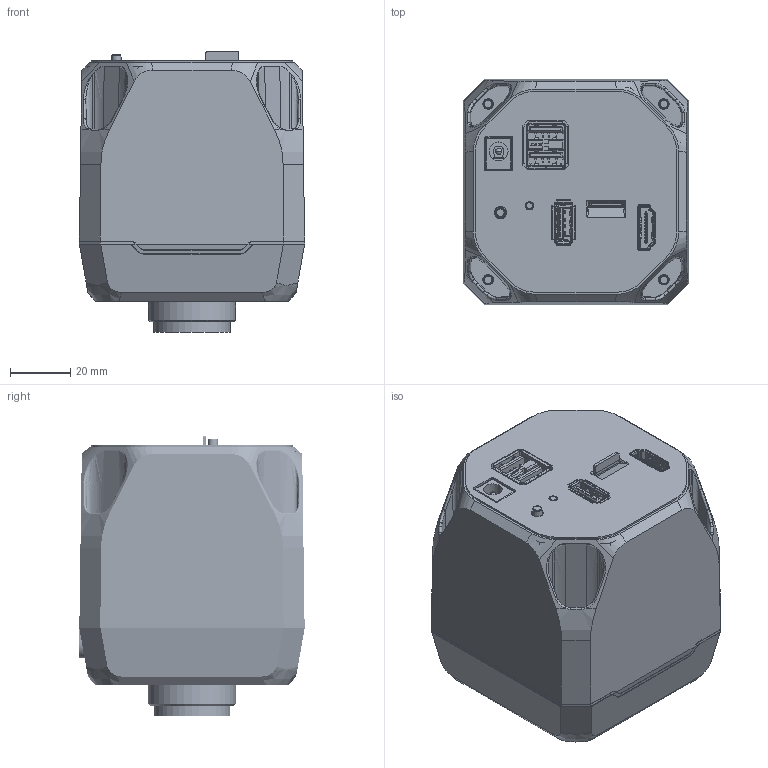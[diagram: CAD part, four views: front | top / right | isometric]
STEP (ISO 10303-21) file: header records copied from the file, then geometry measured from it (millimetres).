
FILE_DESCRIPTION((''),'2;1');
FILE_NAME('ASM0002_ASM','2024-11-29T10:26:52',('gengdawei'),(''),'CREO PARAMETRIC BY PTC INC, 2020044','CREO PARAMETRIC BY PTC INC, 2020044','');
FILE_SCHEMA(('CONFIG_CONTROL_DESIGN'));
Products named in the file (21): 00_11_1; DE-14-054436_15_7_1; D-01-35-26-0007_1_1; SC_T1M2X3B_1_1; SC-P0M2X5NL-GB818_2_1; 0001_ASM_23_1_ASM; 20002_4_1; 101302090_2_1; 101304772_2_1; 101400069_2_1; MV20553REV10_ASM_2_1_ASM; 101300118_2_1; MV23489REV10_ASM_4_1_ASM; 00_9_1; 0003_ASM_5_1_ASM; D-01-35-26-0467_1_1; 20001_ASM_30_1_ASM; HDMI1H_ASM_37_1_ASM; 101301666; 101301828; ASM0002_ASM
Assembly tree (24 placements, depth 5):
  ASM0002_ASM
    HDMI1H_ASM_37_1_ASM
      0001_ASM_23_1_ASM
        00_11_1
        DE-14-054436_15_7_1
        D-01-35-26-0007_1_1
        SC_T1M2X3B_1_1  x2
        SC-P0M2X5NL-GB818_2_1  x4
      20001_ASM_30_1_ASM
        20002_4_1
        MV20553REV10_ASM_2_1_ASM
          101302090_2_1
          101304772_2_1
          101400069_2_1
        MV23489REV10_ASM_4_1_ASM
          101300118_2_1
        0003_ASM_5_1_ASM
          00_9_1
        D-01-35-26-0467_1_1
    101301666
    101301828
Bounding box: 75 x 75.02 x 93.53 mm (x, y, z)
Volume: 94901.2 mm3; surface area: 87056.3 mm2
Topology: 18 solids, 61 shells, 7716 faces, 21255 edges, 13638 vertices
Faces by surface type: plane 5481, cylinder 1624, bspline 323, cone 197, torus 64, extrusion 15, sphere 12
Entity records: 263280 total; most frequent: CARTESIAN_POINT 72135, ORIENTED_EDGE 41206, DIRECTION 37222, EDGE_CURVE 20671, VECTOR 16056, LINE 16041, VERTEX_POINT 13288, AXIS2_PLACEMENT_3D 10583
